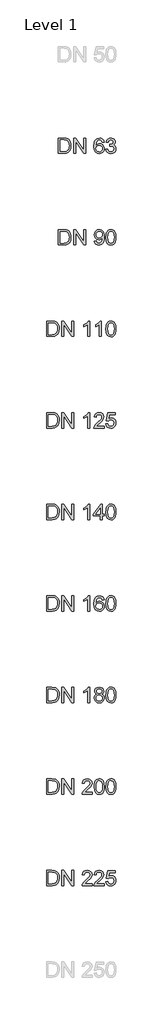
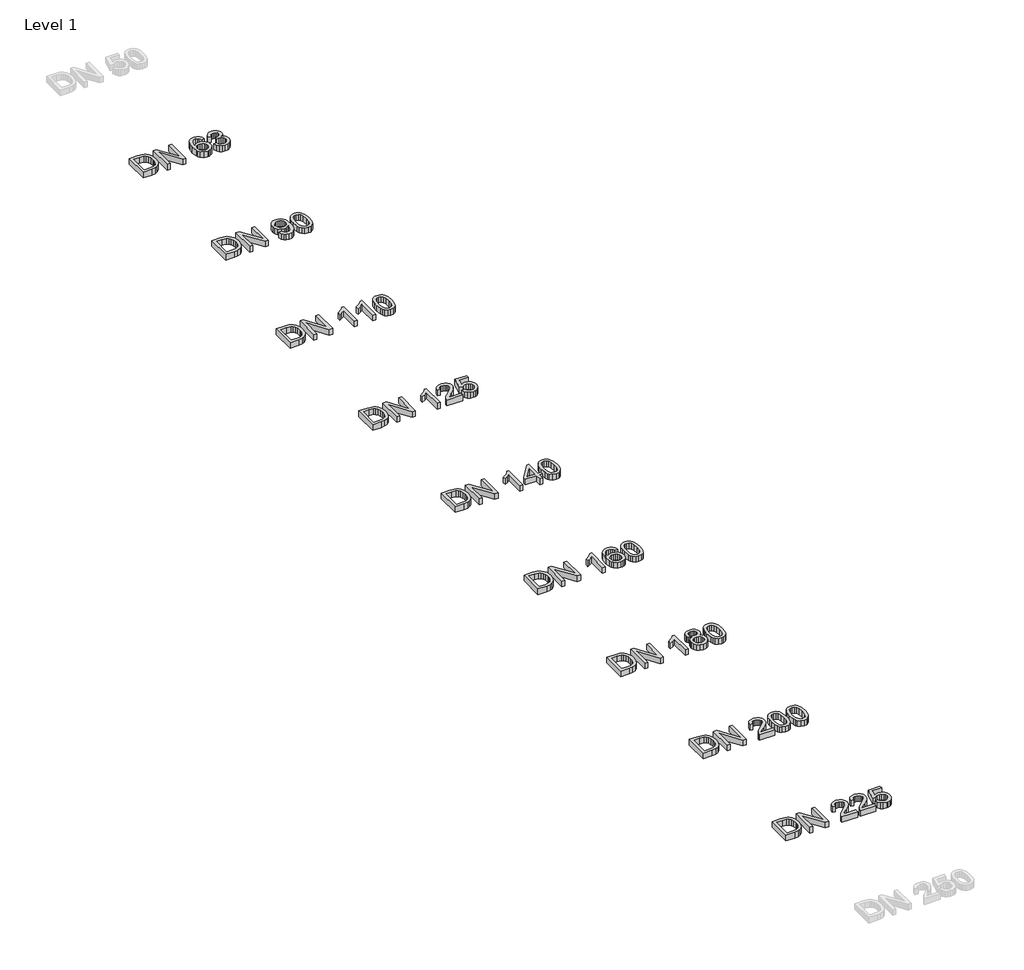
# One storey, part 18 of 26: 9 proxies.
"""IFC4 building model written with IfcOpenShell, lengths in millimetres."""

from ifc_helpers import new_model, si_unit, origin, origin_with_axes, place, context, project, spatial, polyline, outline, extrude, element, save

model = new_model("IFC4")

# Units and contexts
model_context = context("Model", 3, world=origin())
ifc_project = project(units=[si_unit("LENGTHUNIT", "METRE", prefix="MILLI")], contexts=[model_context])

# Site, building, storey
site = spatial("IfcSite", under=ifc_project)
building = spatial("IfcBuilding", under=site)
storey = spatial("IfcBuildingStorey", under=building, Name="Level 1", Elevation=0.0)

# Proxies
placement = place(None, origin())
element("IfcBuildingElementProxy", 1, Name="200mm Arial", ObjectType="200mm Arial", at=placement, inside=storey, context=model_context, shape_type="SweptSolid", body=[
    extrude(outline(polyline([(-19491.3116028, -9113.949573), (-19491.3116028, -8913.0369527), (-19422.0026349, -8913.0369527), (-19386.1464031, -8915.9309577), (-19370.1312736, -8921.5105013), (-19356.6177416, -8930.302881), (-19342.724065, -8945.606772), (-19332.8280393, -8964.6385338), (-19326.9051392, -8987.0302846), (-19324.9308391, -9012.4141423), (-19330.2773908, -9052.9547382), (-19344.0116519, -9082.2136195), (-19362.3567008, -9100.436041), (-19386.3671323, -9110.5160077), (-19418.6671715, -9113.949573), (-19491.3116028, -9113.949573)]), holes=[polyline([(-19466.1975253, -9088.8354954), (-19421.7573803, -9088.8354954), (-19389.4328156, -9085.2057264), (-19370.7934612, -9074.9540815), (-19362.0685265, -9064.0831685), (-19355.5140957, -9050.0116822), (-19351.4122114, -9032.6783089), (-19350.0449167, -9012.0217348), (-19352.7243239, -8984.6513144), (-19360.7625455, -8964.4423301), (-19372.6390025, -8950.5609162), (-19386.8331162, -8942.1732067), (-19422.4440933, -8938.1510302), (-19466.1975253, -8938.1510302), (-19466.1975253, -9088.8354954)])]), origin_with_axes(), (0.0, 0.0, 1.0), 50.0),
    extrude(outline(polyline([(-19290.3989825, -9113.949573), (-19290.3989825, -8913.0369527), (-19263.5190714, -8913.0369527), (-19158.5500754, -9072.2072292), (-19158.5500754, -8913.0369527), (-19133.4359979, -8913.0369527), (-19133.4359979, -9113.949573), (-19160.315909, -9113.949573), (-19265.284905, -8954.7302454), (-19265.284905, -9113.949573), (-19290.3989825, -9113.949573)])), origin_with_axes(), (0.0, 0.0, 1.0), 50.0),
    extrude(outline(polyline([(-18926.2448582, -9113.949573), (-18951.3589358, -9113.949573), (-18951.3589358, -8957.3789958), (-18975.1486381, -8974.3260931), (-19001.5870908, -8987.0057592), (-19001.5870908, -8963.2651077), (-18964.7743658, -8939.769711), (-18951.3037535, -8926.1948653), (-18942.431666, -8913.0369527), (-18926.2448582, -8913.0369527), (-18926.2448582, -9113.949573)])), origin_with_axes(), (0.0, 0.0, 1.0), 50.0),
    extrude(outline(polyline([(-18737.8892767, -8966.4043674), (-18763.0033542, -8969.5436271), (-18772.5192352, -8948.5988789), (-18783.9113143, -8940.7629924), (-18797.6823636, -8938.1510302), (-18820.3438945, -8944.2333458), (-18829.7800677, -8953.8411973), (-18837.4871955, -8967.066555), (-18842.6927257, -8985.7733545), (-18844.6241062, -9011.8255311), (-18834.5502709, -9000.0717013), (-18822.4776101, -8991.7882251), (-18809.0805741, -8986.8770005), (-18795.0336133, -8985.2399256), (-18771.8325221, -8989.7158232), (-18752.3593018, -9003.143516), (-18739.1523382, -9023.6590686), (-18734.750017, -9049.3985455), (-18736.8224189, -9067.3818437), (-18743.0396246, -9084.0530295), (-18752.8865994, -9098.1919608), (-18765.8483083, -9108.5784958), (-18781.3361403, -9114.9612484), (-18798.7614842, -9117.0888326), (-18827.2539447, -9111.4479754), (-18849.9461324, -9094.5254036), (-18858.6051549, -9081.4165418), (-18864.7901709, -9064.6533856), (-18869.7381838, -9020.1641897), (-18864.2444793, -8970.144501), (-18857.3773487, -8951.0667539), (-18847.7633659, -8935.9437382), (-18837.3431084, -8925.9220195), (-18825.2612505, -8918.763649), (-18796.1127338, -8913.0369527), (-18774.0766023, -8916.5808825), (-18756.4305292, -8927.2126722), (-18744.0696942, -8944.0984558), (-18737.8892767, -8966.4043674)]), holes=[polyline([(-18844.6241062, -9049.0061381), (-18838.8115707, -9070.7602267), (-18823.3605269, -9086.554627), (-18800.7235215, -9091.9747551), (-18784.1504376, -9089.1665892), (-18771.1212836, -9080.7420915), (-18762.6783918, -9067.4983397), (-18759.8640945, -9050.2324114), (-18762.6416036, -9033.6593275), (-18770.9741308, -9021.022581), (-18784.224014, -9013.0211476), (-18801.7535911, -9010.3540031), (-18818.3021495, -9013.0211476), (-18832.1406439, -9021.022581), (-18841.5032406, -9033.3527592), (-18844.6241062, -9049.0061381)])]), origin_with_axes(), (0.0, 0.0, 1.0), 50.0),
    extrude(outline(polyline([(-18712.7751992, -9015.1119436), (-18710.9296578, -8982.9529258), (-18705.3930338, -8957.3054194), (-18696.2205094, -8937.7770168), (-18683.4672669, -8923.9753106), (-18667.0413358, -8915.7715422), (-18646.8507456, -8913.0369527), (-18631.3751764, -8914.6556334), (-18617.5182879, -8919.5116758), (-18605.930005, -8927.4150073), (-18597.2602527, -8938.1755557), (-18585.4880288, -8967.9004209), (-18580.9262921, -9015.1119436), (-18582.7534393, -9047.0870203), (-18588.2348811, -9072.6732131), (-18597.3522232, -9092.2200098), (-18610.0870716, -9106.0768983), (-18626.5497909, -9114.335849), (-18646.8507456, -9117.0888326), (-18672.9458418, -9112.3063667), (-18692.7624186, -9097.9589689), (-18701.5180101, -9082.8298218), (-18707.772004, -9063.9789353), (-18712.7751992, -9015.1119436)]), holes=[polyline([(-18687.6611216, -9015.0628927), (-18684.7180657, -9054.5672876), (-18675.8888978, -9077.4311536), (-18662.7432478, -9088.3388547), (-18646.8507456, -9091.9747551), (-18630.9582434, -9088.326592), (-18617.8125935, -9077.3821026), (-18608.9834256, -9054.5059739), (-18606.0403696, -9015.0628927), (-18608.8853237, -8976.4475459), (-18617.420186, -8953.4058703), (-18630.5413105, -8941.9647402), (-18647.1450512, -8938.1510302), (-18662.8658751, -8941.5110191), (-18675.4964903, -8951.5909857), (-18684.6199638, -8976.0674012), (-18687.6611216, -9015.0628927)])]), origin_with_axes(), (0.0, 0.0, 1.0), 50.0),
])
element("IfcBuildingElementProxy", 2, Name="200mm Arial", ObjectType="200mm Arial", at=placement, inside=storey, context=model_context, shape_type="SweptSolid", body=[
    extrude(outline(polyline([(-19491.3116028, -11513.949573), (-19491.3116028, -11313.0369527), (-19422.0026349, -11313.0369527), (-19386.1464031, -11315.9309577), (-19370.1312736, -11321.5105013), (-19356.6177416, -11330.302881), (-19342.724065, -11345.606772), (-19332.8280393, -11364.6385338), (-19326.9051392, -11387.0302846), (-19324.9308391, -11412.4141423), (-19330.2773908, -11452.9547382), (-19344.0116519, -11482.2136195), (-19362.3567008, -11500.436041), (-19386.3671323, -11510.5160077), (-19418.6671715, -11513.949573), (-19491.3116028, -11513.949573)]), holes=[polyline([(-19466.1975253, -11488.8354954), (-19421.7573803, -11488.8354954), (-19389.4328156, -11485.2057264), (-19370.7934612, -11474.9540815), (-19362.0685265, -11464.0831685), (-19355.5140957, -11450.0116822), (-19351.4122114, -11432.6783089), (-19350.0449167, -11412.0217348), (-19352.7243239, -11384.6513144), (-19360.7625455, -11364.4423301), (-19372.6390025, -11350.5609162), (-19386.8331162, -11342.1732067), (-19422.4440933, -11338.1510302), (-19466.1975253, -11338.1510302), (-19466.1975253, -11488.8354954)])]), origin_with_axes(), (0.0, 0.0, 1.0), 50.0),
    extrude(outline(polyline([(-19290.3989825, -11513.949573), (-19290.3989825, -11313.0369527), (-19263.5190714, -11313.0369527), (-19158.5500754, -11472.2072292), (-19158.5500754, -11313.0369527), (-19133.4359979, -11313.0369527), (-19133.4359979, -11513.949573), (-19160.315909, -11513.949573), (-19265.284905, -11354.7302454), (-19265.284905, -11513.949573), (-19290.3989825, -11513.949573)])), origin_with_axes(), (0.0, 0.0, 1.0), 50.0),
    extrude(outline(polyline([(-18891.7130016, -11488.8354954), (-18891.7130016, -11513.949573), (-19023.5619087, -11513.949573), (-19020.8641074, -11496.6345937), (-19005.6092673, -11469.9754118), (-18974.1676195, -11440.8636832), (-18930.806595, -11399.0232377), (-18922.6764029, -11384.6022634), (-18919.9663388, -11370.5736967), (-18922.5231187, -11357.9982638), (-18930.1934583, -11347.5442838), (-18941.9840762, -11340.4993436), (-18956.9016912, -11338.1510302), (-18972.5673328, -11340.4441613), (-18984.7380955, -11347.3235546), (-18992.5923761, -11358.2496499), (-18995.3085714, -11372.6828868), (-19020.422649, -11369.5436271), (-19014.334202, -11345.2511527), (-19001.1701579, -11327.5069778), (-18981.6172299, -11316.6544589), (-18956.3621309, -11313.0369527), (-18930.9230909, -11317.0591291), (-18911.4069511, -11329.1256586), (-18898.9909337, -11347.1518763), (-18894.8522613, -11369.0531178), (-18899.3158962, -11392.8673456), (-18914.1538033, -11417.4909138), (-18950.1326624, -11451.9001431), (-18979.0236618, -11476.0577275), (-18990.3544272, -11488.8354954), (-18891.7130016, -11488.8354954)])), origin_with_axes(), (0.0, 0.0, 1.0), 50.0),
    extrude(outline(polyline([(-18866.5989241, -11415.1119436), (-18864.7533827, -11382.9529258), (-18859.2167587, -11357.3054194), (-18850.0442343, -11337.7770168), (-18837.2909918, -11323.9753106), (-18820.8650607, -11315.7715422), (-18800.6744705, -11313.0369527), (-18785.1989013, -11314.6556334), (-18771.3420128, -11319.5116758), (-18759.7537299, -11327.4150073), (-18751.0839776, -11338.1755557), (-18739.3117537, -11367.9004209), (-18734.750017, -11415.1119436), (-18736.5771642, -11447.0870203), (-18742.058606, -11472.6732131), (-18751.1759481, -11492.2200098), (-18763.9107965, -11506.0768983), (-18780.3735158, -11514.335849), (-18800.6744705, -11517.0888326), (-18826.7695667, -11512.3063667), (-18846.5861435, -11497.9589689), (-18855.341735, -11482.8298218), (-18861.5957289, -11463.9789353), (-18866.5989241, -11415.1119436)]), holes=[polyline([(-18841.4848465, -11415.0628927), (-18838.5417906, -11454.5672876), (-18829.7126227, -11477.4311536), (-18816.5669727, -11488.3388547), (-18800.6744705, -11491.9747551), (-18784.7819683, -11488.326592), (-18771.6363184, -11477.3821026), (-18762.8071505, -11454.5059739), (-18759.8640945, -11415.0628927), (-18762.7090486, -11376.4475459), (-18771.2439109, -11353.4058703), (-18784.3650354, -11341.9647402), (-18800.9687761, -11338.1510302), (-18816.6896001, -11341.5110191), (-18829.3202152, -11351.5909857), (-18838.4436887, -11376.0674012), (-18841.4848465, -11415.0628927)])]), origin_with_axes(), (0.0, 0.0, 1.0), 50.0),
    extrude(outline(polyline([(-18712.7751992, -11415.1119436), (-18710.9296578, -11382.9529258), (-18705.3930338, -11357.3054194), (-18696.2205094, -11337.7770168), (-18683.4672669, -11323.9753106), (-18667.0413358, -11315.7715422), (-18646.8507456, -11313.0369527), (-18631.3751764, -11314.6556334), (-18617.5182879, -11319.5116758), (-18605.930005, -11327.4150073), (-18597.2602527, -11338.1755557), (-18585.4880288, -11367.9004209), (-18580.9262921, -11415.1119436), (-18582.7534393, -11447.0870203), (-18588.2348811, -11472.6732131), (-18597.3522232, -11492.2200098), (-18610.0870716, -11506.0768983), (-18626.5497909, -11514.335849), (-18646.8507456, -11517.0888326), (-18672.9458418, -11512.3063667), (-18692.7624186, -11497.9589689), (-18701.5180101, -11482.8298218), (-18707.772004, -11463.9789353), (-18712.7751992, -11415.1119436)]), holes=[polyline([(-18687.6611216, -11415.0628927), (-18684.7180657, -11454.5672876), (-18675.8888978, -11477.4311536), (-18662.7432478, -11488.3388547), (-18646.8507456, -11491.9747551), (-18630.9582434, -11488.326592), (-18617.8125935, -11477.3821026), (-18608.9834256, -11454.5059739), (-18606.0403696, -11415.0628927), (-18608.8853237, -11376.4475459), (-18617.420186, -11353.4058703), (-18630.5413105, -11341.9647402), (-18647.1450512, -11338.1510302), (-18662.8658751, -11341.5110191), (-18675.4964903, -11351.5909857), (-18684.6199638, -11376.0674012), (-18687.6611216, -11415.0628927)])]), origin_with_axes(), (0.0, 0.0, 1.0), 50.0),
])
element("IfcBuildingElementProxy", 3, Name="200mm Arial", ObjectType="200mm Arial", at=placement, inside=storey, context=model_context, shape_type="SweptSolid", body=[
    extrude(outline(polyline([(-19337.4878779, -3113.949573), (-19337.4878779, -2913.0369527), (-19268.17891, -2913.0369527), (-19232.3226782, -2915.9309577), (-19216.3075487, -2921.5105013), (-19202.7940167, -2930.302881), (-19188.90034, -2945.606772), (-19179.0043144, -2964.6385338), (-19173.0814143, -2987.0302846), (-19171.1071142, -3012.4141423), (-19176.4536659, -3052.9547382), (-19190.187927, -3082.2136195), (-19208.5329759, -3100.436041), (-19232.5434074, -3110.5160077), (-19264.8434466, -3113.949573), (-19337.4878779, -3113.949573)]), holes=[polyline([(-19312.3738004, -3088.8354954), (-19267.9336553, -3088.8354954), (-19235.6090907, -3085.2057264), (-19216.9697363, -3074.9540815), (-19208.2448016, -3064.0831685), (-19201.6903707, -3050.0116822), (-19197.5884865, -3032.6783089), (-19196.2211917, -3012.0217348), (-19198.9005989, -2984.6513144), (-19206.9388205, -2964.4423301), (-19218.8152776, -2950.5609162), (-19233.0093913, -2942.1732067), (-19268.6203684, -2938.1510302), (-19312.3738004, -2938.1510302), (-19312.3738004, -3088.8354954)])]), origin_with_axes(), (0.0, 0.0, 1.0), 50.0),
    extrude(outline(polyline([(-19136.5752576, -3113.949573), (-19136.5752576, -2913.0369527), (-19109.6953465, -2913.0369527), (-19004.7263505, -3072.2072292), (-19004.7263505, -2913.0369527), (-18979.612273, -2913.0369527), (-18979.612273, -3113.949573), (-19006.4921841, -3113.949573), (-19111.4611801, -2954.7302454), (-19111.4611801, -3113.949573), (-19136.5752576, -3113.949573)])), origin_with_axes(), (0.0, 0.0, 1.0), 50.0),
    extrude(outline(polyline([(-18737.8892767, -2966.4043674), (-18763.0033542, -2969.5436271), (-18772.5192352, -2948.5988789), (-18783.9113143, -2940.7629924), (-18797.6823636, -2938.1510302), (-18820.3438945, -2944.2333458), (-18829.7800677, -2953.8411973), (-18837.4871955, -2967.066555), (-18842.6927257, -2985.7733545), (-18844.6241062, -3011.8255311), (-18834.5502709, -3000.0717013), (-18822.4776101, -2991.7882251), (-18809.0805741, -2986.8770005), (-18795.0336133, -2985.2399256), (-18771.8325221, -2989.7158232), (-18752.3593018, -3003.143516), (-18739.1523382, -3023.6590686), (-18734.750017, -3049.3985455), (-18736.8224189, -3067.3818437), (-18743.0396246, -3084.0530295), (-18752.8865994, -3098.1919608), (-18765.8483083, -3108.5784958), (-18781.3361403, -3114.9612484), (-18798.7614842, -3117.0888326), (-18827.2539447, -3111.4479754), (-18849.9461324, -3094.5254036), (-18858.6051549, -3081.4165418), (-18864.7901709, -3064.6533856), (-18869.7381838, -3020.1641897), (-18864.2444793, -2970.144501), (-18857.3773487, -2951.0667539), (-18847.7633659, -2935.9437382), (-18837.3431084, -2925.9220195), (-18825.2612505, -2918.763649), (-18796.1127338, -2913.0369527), (-18774.0766023, -2916.5808825), (-18756.4305292, -2927.2126722), (-18744.0696942, -2944.0984558), (-18737.8892767, -2966.4043674)]), holes=[polyline([(-18844.6241062, -3049.0061381), (-18838.8115707, -3070.7602267), (-18823.3605269, -3086.554627), (-18800.7235215, -3091.9747551), (-18784.1504376, -3089.1665892), (-18771.1212836, -3080.7420915), (-18762.6783918, -3067.4983397), (-18759.8640945, -3050.2324114), (-18762.6416036, -3033.6593275), (-18770.9741308, -3021.022581), (-18784.224014, -3013.0211476), (-18801.7535911, -3010.3540031), (-18818.3021495, -3013.0211476), (-18832.1406439, -3021.022581), (-18841.5032406, -3033.3527592), (-18844.6241062, -3049.0061381)])]), origin_with_axes(), (0.0, 0.0, 1.0), 50.0),
    extrude(outline(polyline([(-18712.7751992, -3060.5821582), (-18687.6611216, -3057.4428985), (-18682.0386585, -3073.2250361), (-18673.8042331, -3083.8813512), (-18662.5531754, -3089.9514041), (-18647.8808152, -3091.9747551), (-18630.6639378, -3089.1911147), (-18617.3711351, -3080.8401934), (-18608.873061, -3068.3812565), (-18606.0403696, -3053.2735692), (-18608.8485355, -3038.9323028), (-18617.2730332, -3027.3011004), (-18630.0262757, -3019.5939726), (-18645.820676, -3017.02493), (-18663.4299609, -3019.7717822), (-18660.6340577, -2994.6577047), (-18656.6118812, -2994.9520102), (-18641.5655076, -2993.1493885), (-18628.1132893, -2987.7415231), (-18618.6219339, -2978.5935242), (-18615.4581487, -2965.5705016), (-18617.7512798, -2954.7241141), (-18624.6306731, -2945.925603), (-18635.1275727, -2940.0946734), (-18648.2732227, -2938.1510302), (-18661.4433981, -2940.1130675), (-18672.2100778, -2945.9991794), (-18680.0704898, -2955.809366), (-18684.5218619, -2969.5436271), (-18709.6359395, -2966.4043674), (-18702.2415114, -2943.8532011), (-18689.0835987, -2927.0164685), (-18671.0819064, -2916.5318316), (-18649.1561395, -2913.0369527), (-18633.3678705, -2914.7598667), (-18618.8671885, -2919.9286087), (-18606.6412435, -2928.0833263), (-18597.6771856, -2938.7641669), (-18592.1773498, -2951.0698196), (-18590.3440712, -2964.0989736), (-18592.0853793, -2976.2390794), (-18597.3093036, -2987.2510138), (-18605.9422678, -2996.6320047), (-18617.9106953, -3003.87928), (-18602.1898714, -3010.2313758), (-18590.5402749, -3021.0471064), (-18583.3297878, -3035.7378608), (-18580.9262921, -3053.7150276), (-18585.7332835, -3078.191443), (-18600.1542577, -3098.645682), (-18621.9206091, -3112.478045), (-18648.763732, -3117.0888326), (-18673.0439437, -3113.1524953), (-18692.8114695, -3101.3434833), (-18706.5579934, -3083.2804773), (-18712.7751992, -3060.5821582)])), origin_with_axes(), (0.0, 0.0, 1.0), 50.0),
])
element("IfcBuildingElementProxy", 4, Name="200mm Arial", ObjectType="200mm Arial", at=placement, inside=storey, context=model_context, shape_type="SweptSolid", body=[
    extrude(outline(polyline([(-19337.4878779, -4313.949573), (-19337.4878779, -4113.0369527), (-19268.17891, -4113.0369527), (-19232.3226782, -4115.9309577), (-19216.3075487, -4121.5105013), (-19202.7940167, -4130.302881), (-19188.90034, -4145.606772), (-19179.0043144, -4164.6385338), (-19173.0814143, -4187.0302846), (-19171.1071142, -4212.4141423), (-19176.4536659, -4252.9547382), (-19190.187927, -4282.2136195), (-19208.5329759, -4300.436041), (-19232.5434074, -4310.5160077), (-19264.8434466, -4313.949573), (-19337.4878779, -4313.949573)]), holes=[polyline([(-19312.3738004, -4288.8354954), (-19267.9336553, -4288.8354954), (-19235.6090907, -4285.2057264), (-19216.9697363, -4274.9540815), (-19208.2448016, -4264.0831685), (-19201.6903707, -4250.0116822), (-19197.5884865, -4232.6783089), (-19196.2211917, -4212.0217348), (-19198.9005989, -4184.6513144), (-19206.9388205, -4164.4423301), (-19218.8152776, -4150.5609162), (-19233.0093913, -4142.1732067), (-19268.6203684, -4138.1510302), (-19312.3738004, -4138.1510302), (-19312.3738004, -4288.8354954)])]), origin_with_axes(), (0.0, 0.0, 1.0), 50.0),
    extrude(outline(polyline([(-19136.5752576, -4313.949573), (-19136.5752576, -4113.0369527), (-19109.6953465, -4113.0369527), (-19004.7263505, -4272.2072292), (-19004.7263505, -4113.0369527), (-18979.612273, -4113.0369527), (-18979.612273, -4313.949573), (-19006.4921841, -4313.949573), (-19111.4611801, -4154.7302454), (-19111.4611801, -4313.949573), (-19136.5752576, -4313.949573)])), origin_with_axes(), (0.0, 0.0, 1.0), 50.0),
    extrude(outline(polyline([(-18863.4596644, -4263.7214179), (-18838.3455868, -4260.5821582), (-18834.0536302, -4274.8375855), (-18827.0638723, -4284.5435388), (-18817.5479914, -4290.116951), (-18805.6776657, -4291.9747551), (-18785.3460541, -4287.1922892), (-18771.562742, -4274.4145212), (-18763.3467108, -4252.5868562), (-18759.7169417, -4223.4506021), (-18759.8640945, -4218.5455089), (-18768.5645037, -4229.1650358), (-18779.9504515, -4237.5772708), (-18793.2003347, -4243.0587125), (-18807.4925502, -4244.8858597), (-18830.3932044, -4240.4222249), (-18849.4556231, -4227.0313202), (-18862.3130988, -4206.3440894), (-18866.5989241, -4179.9914758), (-18862.1046324, -4152.7682081), (-18848.6217572, -4131.4310524), (-18828.3698534, -4117.6354776), (-18803.5684756, -4113.0369527), (-18784.8371506, -4115.6611776), (-18767.7858202, -4123.5338523), (-18753.5242615, -4136.2625693), (-18743.162252, -4153.4549212), (-18736.8530757, -4177.2200981), (-18734.750017, -4209.6672901), (-18736.8469444, -4244.070388), (-18743.1377265, -4270.6621249), (-18753.5671811, -4290.6442486), (-18768.0801258, -4305.2185069), (-18786.0511612, -4314.1212512), (-18806.8548881, -4317.0888326), (-18828.3269338, -4313.5878223), (-18845.4579721, -4303.0847914), (-18857.4386624, -4286.2419274), (-18863.4596644, -4263.7214179)]), holes=[polyline([(-18759.8640945, -4179.4028646), (-18762.5741586, -4162.3821909), (-18770.7043507, -4149.2855919), (-18783.3227031, -4140.9346706), (-18799.4972481, -4138.1510302), (-18816.2726671, -4141.1492685), (-18829.7126227, -4150.1439832), (-18838.5417906, -4163.9089012), (-18841.4848465, -4181.2177491), (-18838.7012061, -4196.7362379), (-18830.3502848, -4209.0541534), (-18817.241423, -4217.092375), (-18800.1839612, -4219.7717822), (-18784.1381749, -4217.092375), (-18771.2193855, -4209.0541534), (-18762.7029173, -4196.2825168), (-18759.8640945, -4179.4028646)])]), origin_with_axes(), (0.0, 0.0, 1.0), 50.0),
    extrude(outline(polyline([(-18712.7751992, -4215.1119436), (-18710.9296578, -4182.9529258), (-18705.3930338, -4157.3054194), (-18696.2205094, -4137.7770168), (-18683.4672669, -4123.9753106), (-18667.0413358, -4115.7715422), (-18646.8507456, -4113.0369527), (-18631.3751764, -4114.6556334), (-18617.5182879, -4119.5116758), (-18605.930005, -4127.4150073), (-18597.2602527, -4138.1755557), (-18585.4880288, -4167.9004209), (-18580.9262921, -4215.1119436), (-18582.7534393, -4247.0870203), (-18588.2348811, -4272.6732131), (-18597.3522232, -4292.2200098), (-18610.0870716, -4306.0768983), (-18626.5497909, -4314.335849), (-18646.8507456, -4317.0888326), (-18672.9458418, -4312.3063667), (-18692.7624186, -4297.9589689), (-18701.5180101, -4282.8298218), (-18707.772004, -4263.9789353), (-18712.7751992, -4215.1119436)]), holes=[polyline([(-18687.6611216, -4215.0628927), (-18684.7180657, -4254.5672876), (-18675.8888978, -4277.4311536), (-18662.7432478, -4288.3388547), (-18646.8507456, -4291.9747551), (-18630.9582434, -4288.326592), (-18617.8125935, -4277.3821026), (-18608.9834256, -4254.5059739), (-18606.0403696, -4215.0628927), (-18608.8853237, -4176.4475459), (-18617.420186, -4153.4058703), (-18630.5413105, -4141.9647402), (-18647.1450512, -4138.1510302), (-18662.8658751, -4141.5110191), (-18675.4964903, -4151.5909857), (-18684.6199638, -4176.0674012), (-18687.6611216, -4215.0628927)])]), origin_with_axes(), (0.0, 0.0, 1.0), 50.0),
])
element("IfcBuildingElementProxy", 5, Name="200mm Arial", ObjectType="200mm Arial", at=placement, inside=storey, context=model_context, shape_type="SweptSolid", body=[
    extrude(outline(polyline([(-19491.3116028, -5513.949573), (-19491.3116028, -5313.0369527), (-19422.0026349, -5313.0369527), (-19386.1464031, -5315.9309577), (-19370.1312736, -5321.5105013), (-19356.6177416, -5330.302881), (-19342.724065, -5345.606772), (-19332.8280393, -5364.6385338), (-19326.9051392, -5387.0302846), (-19324.9308391, -5412.4141423), (-19330.2773908, -5452.9547382), (-19344.0116519, -5482.2136195), (-19362.3567008, -5500.436041), (-19386.3671323, -5510.5160077), (-19418.6671715, -5513.949573), (-19491.3116028, -5513.949573)]), holes=[polyline([(-19466.1975253, -5488.8354954), (-19421.7573803, -5488.8354954), (-19389.4328156, -5485.2057264), (-19370.7934612, -5474.9540815), (-19362.0685265, -5464.0831685), (-19355.5140957, -5450.0116822), (-19351.4122114, -5432.6783089), (-19350.0449167, -5412.0217348), (-19352.7243239, -5384.6513144), (-19360.7625455, -5364.4423301), (-19372.6390025, -5350.5609162), (-19386.8331162, -5342.1732067), (-19422.4440933, -5338.1510302), (-19466.1975253, -5338.1510302), (-19466.1975253, -5488.8354954)])]), origin_with_axes(), (0.0, 0.0, 1.0), 50.0),
    extrude(outline(polyline([(-19290.3989825, -5513.949573), (-19290.3989825, -5313.0369527), (-19263.5190714, -5313.0369527), (-19158.5500754, -5472.2072292), (-19158.5500754, -5313.0369527), (-19133.4359979, -5313.0369527), (-19133.4359979, -5513.949573), (-19160.315909, -5513.949573), (-19265.284905, -5354.7302454), (-19265.284905, -5513.949573), (-19290.3989825, -5513.949573)])), origin_with_axes(), (0.0, 0.0, 1.0), 50.0),
    extrude(outline(polyline([(-18926.2448582, -5513.949573), (-18951.3589358, -5513.949573), (-18951.3589358, -5357.3789958), (-18975.1486381, -5374.3260931), (-19001.5870908, -5387.0057592), (-19001.5870908, -5363.2651077), (-18964.7743658, -5339.769711), (-18951.3037535, -5326.1948653), (-18942.431666, -5313.0369527), (-18926.2448582, -5313.0369527), (-18926.2448582, -5513.949573)])), origin_with_axes(), (0.0, 0.0, 1.0), 50.0),
    extrude(outline(polyline([(-18772.4211333, -5513.949573), (-18797.5352108, -5513.949573), (-18797.5352108, -5357.3789958), (-18821.3249132, -5374.3260931), (-18847.7633659, -5387.0057592), (-18847.7633659, -5363.2651077), (-18810.9506409, -5339.769711), (-18797.4800285, -5326.1948653), (-18788.6079411, -5313.0369527), (-18772.4211333, -5313.0369527), (-18772.4211333, -5513.949573)])), origin_with_axes(), (0.0, 0.0, 1.0), 50.0),
    extrude(outline(polyline([(-18712.7751992, -5415.1119436), (-18710.9296578, -5382.9529258), (-18705.3930338, -5357.3054194), (-18696.2205094, -5337.7770168), (-18683.4672669, -5323.9753106), (-18667.0413358, -5315.7715422), (-18646.8507456, -5313.0369527), (-18631.3751764, -5314.6556334), (-18617.5182879, -5319.5116758), (-18605.930005, -5327.4150073), (-18597.2602527, -5338.1755557), (-18585.4880288, -5367.9004209), (-18580.9262921, -5415.1119436), (-18582.7534393, -5447.0870203), (-18588.2348811, -5472.6732131), (-18597.3522232, -5492.2200098), (-18610.0870716, -5506.0768983), (-18626.5497909, -5514.335849), (-18646.8507456, -5517.0888326), (-18672.9458418, -5512.3063667), (-18692.7624186, -5497.9589689), (-18701.5180101, -5482.8298218), (-18707.772004, -5463.9789353), (-18712.7751992, -5415.1119436)]), holes=[polyline([(-18687.6611216, -5415.0628927), (-18684.7180657, -5454.5672876), (-18675.8888978, -5477.4311536), (-18662.7432478, -5488.3388547), (-18646.8507456, -5491.9747551), (-18630.9582434, -5488.326592), (-18617.8125935, -5477.3821026), (-18608.9834256, -5454.5059739), (-18606.0403696, -5415.0628927), (-18608.8853237, -5376.4475459), (-18617.420186, -5353.4058703), (-18630.5413105, -5341.9647402), (-18647.1450512, -5338.1510302), (-18662.8658751, -5341.5110191), (-18675.4964903, -5351.5909857), (-18684.6199638, -5376.0674012), (-18687.6611216, -5415.0628927)])]), origin_with_axes(), (0.0, 0.0, 1.0), 50.0),
])
element("IfcBuildingElementProxy", 6, Name="200mm Arial", ObjectType="200mm Arial", at=placement, inside=storey, context=model_context, shape_type="SweptSolid", body=[
    extrude(outline(polyline([(-19491.3116028, -6713.949573), (-19491.3116028, -6513.0369527), (-19422.0026349, -6513.0369527), (-19386.1464031, -6515.9309577), (-19370.1312736, -6521.5105013), (-19356.6177416, -6530.302881), (-19342.724065, -6545.606772), (-19332.8280393, -6564.6385338), (-19326.9051392, -6587.0302846), (-19324.9308391, -6612.4141423), (-19330.2773908, -6652.9547382), (-19344.0116519, -6682.2136195), (-19362.3567008, -6700.436041), (-19386.3671323, -6710.5160077), (-19418.6671715, -6713.949573), (-19491.3116028, -6713.949573)]), holes=[polyline([(-19466.1975253, -6688.8354954), (-19421.7573803, -6688.8354954), (-19389.4328156, -6685.2057264), (-19370.7934612, -6674.9540815), (-19362.0685265, -6664.0831685), (-19355.5140957, -6650.0116822), (-19351.4122114, -6632.6783089), (-19350.0449167, -6612.0217348), (-19352.7243239, -6584.6513144), (-19360.7625455, -6564.4423301), (-19372.6390025, -6550.5609162), (-19386.8331162, -6542.1732067), (-19422.4440933, -6538.1510302), (-19466.1975253, -6538.1510302), (-19466.1975253, -6688.8354954)])]), origin_with_axes(), (0.0, 0.0, 1.0), 50.0),
    extrude(outline(polyline([(-19290.3989825, -6713.949573), (-19290.3989825, -6513.0369527), (-19263.5190714, -6513.0369527), (-19158.5500754, -6672.2072292), (-19158.5500754, -6513.0369527), (-19133.4359979, -6513.0369527), (-19133.4359979, -6713.949573), (-19160.315909, -6713.949573), (-19265.284905, -6554.7302454), (-19265.284905, -6713.949573), (-19290.3989825, -6713.949573)])), origin_with_axes(), (0.0, 0.0, 1.0), 50.0),
    extrude(outline(polyline([(-18926.2448582, -6713.949573), (-18951.3589358, -6713.949573), (-18951.3589358, -6557.3789958), (-18975.1486381, -6574.3260931), (-19001.5870908, -6587.0057592), (-19001.5870908, -6563.2651077), (-18964.7743658, -6539.769711), (-18951.3037535, -6526.1948653), (-18942.431666, -6513.0369527), (-18926.2448582, -6513.0369527), (-18926.2448582, -6713.949573)])), origin_with_axes(), (0.0, 0.0, 1.0), 50.0),
    extrude(outline(polyline([(-18737.8892767, -6688.8354954), (-18737.8892767, -6713.949573), (-18869.7381838, -6713.949573), (-18867.0403825, -6696.6345937), (-18851.7855424, -6669.9754118), (-18820.3438945, -6640.8636832), (-18776.98287, -6599.0232377), (-18768.852678, -6584.6022634), (-18766.1426139, -6570.5736967), (-18768.6993938, -6557.9982638), (-18776.3697334, -6547.5442838), (-18788.1603513, -6540.4993436), (-18803.0779662, -6538.1510302), (-18818.7436079, -6540.4441613), (-18830.9143705, -6547.3235546), (-18838.7686511, -6558.2496499), (-18841.4848465, -6572.6828868), (-18866.5989241, -6569.5436271), (-18860.510477, -6545.2511527), (-18847.346433, -6527.5069778), (-18827.7935049, -6516.6544589), (-18802.538406, -6513.0369527), (-18777.099366, -6517.0591291), (-18757.5832262, -6529.1256586), (-18745.1672088, -6547.1518763), (-18741.0285364, -6569.0531178), (-18745.4921713, -6592.8673456), (-18760.3300784, -6617.4909138), (-18796.3089375, -6651.9001431), (-18825.1999369, -6676.0577275), (-18836.5307023, -6688.8354954), (-18737.8892767, -6688.8354954)])), origin_with_axes(), (0.0, 0.0, 1.0), 50.0),
    extrude(outline(polyline([(-18712.7751992, -6660.5821582), (-18687.6611216, -6657.4428985), (-18683.0503339, -6672.5199289), (-18675.005981, -6683.3172655), (-18663.5648509, -6689.8103827), (-18648.763732, -6691.9747551), (-18630.7620397, -6688.9642541), (-18617.2730332, -6679.9327511), (-18608.8485355, -6665.9225785), (-18606.0403696, -6647.9760685), (-18608.6707259, -6631.0780222), (-18616.5617947, -6618.1531014), (-18629.7748897, -6609.9493329), (-18648.3713245, -6607.2147434), (-18670.4197188, -6611.5802764), (-18684.5218619, -6622.9110419), (-18709.6359395, -6619.7717822), (-18687.6611216, -6516.1762123), (-18590.3440712, -6516.1762123), (-18590.3440712, -6541.2902899), (-18667.3540355, -6541.2902899), (-18678.0961897, -6596.619742), (-18660.1558111, -6585.7304349), (-18641.3570412, -6582.1006659), (-18617.8923012, -6586.601089), (-18598.4129496, -6600.1023582), (-18585.2979565, -6620.6792244), (-18580.9262921, -6646.4064386), (-18584.8626294, -6671.5205162), (-18596.6716415, -6693.0048247), (-18607.1072274, -6703.5415782), (-18619.2841214, -6711.0678307), (-18633.2023236, -6715.5835821), (-18648.8618339, -6717.0888326), (-18673.5283216, -6713.2199403), (-18693.1793515, -6701.6132634), (-18706.6499639, -6683.6177025), (-18712.7751992, -6660.5821582)])), origin_with_axes(), (0.0, 0.0, 1.0), 50.0),
])
element("IfcBuildingElementProxy", 7, Name="200mm Arial", ObjectType="200mm Arial", at=placement, inside=storey, context=model_context, shape_type="SweptSolid", body=[
    extrude(outline(polyline([(-19491.3116028, -7913.949573), (-19491.3116028, -7713.0369527), (-19422.0026349, -7713.0369527), (-19386.1464031, -7715.9309577), (-19370.1312736, -7721.5105013), (-19356.6177416, -7730.302881), (-19342.724065, -7745.606772), (-19332.8280393, -7764.6385338), (-19326.9051392, -7787.0302846), (-19324.9308391, -7812.4141423), (-19330.2773908, -7852.9547382), (-19344.0116519, -7882.2136195), (-19362.3567008, -7900.436041), (-19386.3671323, -7910.5160077), (-19418.6671715, -7913.949573), (-19491.3116028, -7913.949573)]), holes=[polyline([(-19466.1975253, -7888.8354954), (-19421.7573803, -7888.8354954), (-19389.4328156, -7885.2057264), (-19370.7934612, -7874.9540815), (-19362.0685265, -7864.0831685), (-19355.5140957, -7850.0116822), (-19351.4122114, -7832.6783089), (-19350.0449167, -7812.0217348), (-19352.7243239, -7784.6513144), (-19360.7625455, -7764.4423301), (-19372.6390025, -7750.5609162), (-19386.8331162, -7742.1732067), (-19422.4440933, -7738.1510302), (-19466.1975253, -7738.1510302), (-19466.1975253, -7888.8354954)])]), origin_with_axes(), (0.0, 0.0, 1.0), 50.0),
    extrude(outline(polyline([(-19290.3989825, -7913.949573), (-19290.3989825, -7713.0369527), (-19263.5190714, -7713.0369527), (-19158.5500754, -7872.2072292), (-19158.5500754, -7713.0369527), (-19133.4359979, -7713.0369527), (-19133.4359979, -7913.949573), (-19160.315909, -7913.949573), (-19265.284905, -7754.7302454), (-19265.284905, -7913.949573), (-19290.3989825, -7913.949573)])), origin_with_axes(), (0.0, 0.0, 1.0), 50.0),
    extrude(outline(polyline([(-18926.2448582, -7913.949573), (-18951.3589358, -7913.949573), (-18951.3589358, -7757.3789958), (-18975.1486381, -7774.3260931), (-19001.5870908, -7787.0057592), (-19001.5870908, -7763.2651077), (-18964.7743658, -7739.769711), (-18951.3037535, -7726.1948653), (-18942.431666, -7713.0369527), (-18926.2448582, -7713.0369527), (-18926.2448582, -7913.949573)])), origin_with_axes(), (0.0, 0.0, 1.0), 50.0),
    extrude(outline(polyline([(-18784.9781721, -7913.949573), (-18784.9781721, -7866.8606776), (-18876.0167031, -7866.8606776), (-18876.0167031, -7841.7466), (-18778.6996527, -7716.1762123), (-18759.8640945, -7716.1762123), (-18759.8640945, -7841.7466), (-18734.750017, -7841.7466), (-18734.750017, -7866.8606776), (-18759.8640945, -7866.8606776), (-18759.8640945, -7913.949573), (-18784.9781721, -7913.949573)]), holes=[polyline([(-18784.9781721, -7841.7466), (-18784.9781721, -7764.1480245), (-18845.1146156, -7841.7466), (-18784.9781721, -7841.7466)])]), origin_with_axes(), (0.0, 0.0, 1.0), 50.0),
    extrude(outline(polyline([(-18712.7751992, -7815.1119436), (-18710.9296578, -7782.9529258), (-18705.3930338, -7757.3054194), (-18696.2205094, -7737.7770168), (-18683.4672669, -7723.9753106), (-18667.0413358, -7715.7715422), (-18646.8507456, -7713.0369527), (-18631.3751764, -7714.6556334), (-18617.5182879, -7719.5116758), (-18605.930005, -7727.4150073), (-18597.2602527, -7738.1755557), (-18585.4880288, -7767.9004209), (-18580.9262921, -7815.1119436), (-18582.7534393, -7847.0870203), (-18588.2348811, -7872.6732131), (-18597.3522232, -7892.2200098), (-18610.0870716, -7906.0768983), (-18626.5497909, -7914.335849), (-18646.8507456, -7917.0888326), (-18672.9458418, -7912.3063667), (-18692.7624186, -7897.9589689), (-18701.5180101, -7882.8298218), (-18707.772004, -7863.9789353), (-18712.7751992, -7815.1119436)]), holes=[polyline([(-18687.6611216, -7815.0628927), (-18684.7180657, -7854.5672876), (-18675.8888978, -7877.4311536), (-18662.7432478, -7888.3388547), (-18646.8507456, -7891.9747551), (-18630.9582434, -7888.326592), (-18617.8125935, -7877.3821026), (-18608.9834256, -7854.5059739), (-18606.0403696, -7815.0628927), (-18608.8853237, -7776.4475459), (-18617.420186, -7753.4058703), (-18630.5413105, -7741.9647402), (-18647.1450512, -7738.1510302), (-18662.8658751, -7741.5110191), (-18675.4964903, -7751.5909857), (-18684.6199638, -7776.0674012), (-18687.6611216, -7815.0628927)])]), origin_with_axes(), (0.0, 0.0, 1.0), 50.0),
])
element("IfcBuildingElementProxy", 8, Name="200mm Arial", ObjectType="200mm Arial", at=placement, inside=storey, context=model_context, shape_type="SweptSolid", body=[
    extrude(outline(polyline([(-19491.3116028, -10313.949573), (-19491.3116028, -10113.0369527), (-19422.0026349, -10113.0369527), (-19386.1464031, -10115.9309577), (-19370.1312736, -10121.5105013), (-19356.6177416, -10130.302881), (-19342.724065, -10145.606772), (-19332.8280393, -10164.6385338), (-19326.9051392, -10187.0302846), (-19324.9308391, -10212.4141423), (-19330.2773908, -10252.9547382), (-19344.0116519, -10282.2136195), (-19362.3567008, -10300.436041), (-19386.3671323, -10310.5160077), (-19418.6671715, -10313.949573), (-19491.3116028, -10313.949573)]), holes=[polyline([(-19466.1975253, -10288.8354954), (-19421.7573803, -10288.8354954), (-19389.4328156, -10285.2057264), (-19370.7934612, -10274.9540815), (-19362.0685265, -10264.0831685), (-19355.5140957, -10250.0116822), (-19351.4122114, -10232.6783089), (-19350.0449167, -10212.0217348), (-19352.7243239, -10184.6513144), (-19360.7625455, -10164.4423301), (-19372.6390025, -10150.5609162), (-19386.8331162, -10142.1732067), (-19422.4440933, -10138.1510302), (-19466.1975253, -10138.1510302), (-19466.1975253, -10288.8354954)])]), origin_with_axes(), (0.0, 0.0, 1.0), 50.0),
    extrude(outline(polyline([(-19290.3989825, -10313.949573), (-19290.3989825, -10113.0369527), (-19263.5190714, -10113.0369527), (-19158.5500754, -10272.2072292), (-19158.5500754, -10113.0369527), (-19133.4359979, -10113.0369527), (-19133.4359979, -10313.949573), (-19160.315909, -10313.949573), (-19265.284905, -10154.7302454), (-19265.284905, -10313.949573), (-19290.3989825, -10313.949573)])), origin_with_axes(), (0.0, 0.0, 1.0), 50.0),
    extrude(outline(polyline([(-18926.2448582, -10313.949573), (-18951.3589358, -10313.949573), (-18951.3589358, -10157.3789958), (-18975.1486381, -10174.3260931), (-19001.5870908, -10187.0057592), (-19001.5870908, -10163.2651077), (-18964.7743658, -10139.769711), (-18951.3037535, -10126.1948653), (-18942.431666, -10113.0369527), (-18926.2448582, -10113.0369527), (-18926.2448582, -10313.949573)])), origin_with_axes(), (0.0, 0.0, 1.0), 50.0),
    extrude(outline(polyline([(-18830.0069283, -10203.2906688), (-18843.4530152, -10196.6687929), (-18852.8891884, -10187.6924722), (-18858.4626006, -10176.5456478), (-18860.3204047, -10163.4122605), (-18856.2737027, -10143.7796247), (-18844.1335969, -10127.5560287), (-18825.2612505, -10116.6667217), (-18801.0178271, -10113.0369527), (-18776.6272508, -10116.7525608), (-18757.5096498, -10127.8993853), (-18745.1488147, -10144.3804986), (-18741.0285364, -10164.0989736), (-18742.861815, -10176.8092965), (-18748.3616508, -10187.7660486), (-18757.5893575, -10196.687187), (-18770.6062488, -10203.2906688), (-18755.1490736, -10211.255314), (-18743.8980159, -10222.9846183), (-18737.0370167, -10237.9144959), (-18734.750017, -10255.4808612), (-18739.2872283, -10279.4912927), (-18752.8988621, -10299.332395), (-18773.9171868, -10312.6497232), (-18800.6744705, -10317.0888326), (-18827.4317543, -10312.6313291), (-18848.450079, -10299.2588186), (-18862.0617128, -10279.227644), (-18866.5989241, -10254.7941481), (-18864.2199538, -10236.5472012), (-18857.0830431, -10221.5376158), (-18845.5560739, -10210.2804267), (-18830.0069283, -10203.2906688)]), holes=[polyline([(-18835.2063271, -10164.1480245), (-18832.9806411, -10175.110908), (-18826.3035829, -10183.8664995), (-18815.3713562, -10189.6054586), (-18800.3801649, -10191.518445), (-18785.7384615, -10189.6177213), (-18774.9717818, -10183.9155504), (-18768.3499059, -10175.4542645), (-18766.1426139, -10165.276196), (-18768.4234823, -10154.7118513), (-18775.2660874, -10145.974654), (-18786.1799199, -10140.1069361), (-18800.6744705, -10138.1510302), (-18815.2609916, -10140.0640166), (-18826.1564301, -10145.8029757), (-18832.9438529, -10154.2152106), (-18835.2063271, -10164.1480245)]), polyline([(-18841.4848465, -10253.9112313), (-18837.2909918, -10272.8203659), (-18831.4845876, -10280.9321639), (-18822.4530846, -10286.97156), (-18800.4782668, -10291.9747551), (-18783.3840168, -10289.3443988), (-18770.5571979, -10281.45333), (-18762.5373704, -10269.5032966), (-18759.8640945, -10254.6960463), (-18762.6232095, -10239.6374099), (-18770.9005544, -10227.4237277), (-18784.0216789, -10219.3303238), (-18801.3121327, -10216.6325225), (-18818.1672594, -10219.2935356), (-18830.8653196, -10227.2765749), (-18838.8299648, -10239.2572652), (-18841.4848465, -10253.9112313)])]), origin_with_axes(), (0.0, 0.0, 1.0), 50.0),
    extrude(outline(polyline([(-18712.7751992, -10215.1119436), (-18710.9296578, -10182.9529258), (-18705.3930338, -10157.3054194), (-18696.2205094, -10137.7770168), (-18683.4672669, -10123.9753106), (-18667.0413358, -10115.7715422), (-18646.8507456, -10113.0369527), (-18631.3751764, -10114.6556334), (-18617.5182879, -10119.5116758), (-18605.930005, -10127.4150073), (-18597.2602527, -10138.1755557), (-18585.4880288, -10167.9004209), (-18580.9262921, -10215.1119436), (-18582.7534393, -10247.0870203), (-18588.2348811, -10272.6732131), (-18597.3522232, -10292.2200098), (-18610.0870716, -10306.0768983), (-18626.5497909, -10314.335849), (-18646.8507456, -10317.0888326), (-18672.9458418, -10312.3063667), (-18692.7624186, -10297.9589689), (-18701.5180101, -10282.8298218), (-18707.772004, -10263.9789353), (-18712.7751992, -10215.1119436)]), holes=[polyline([(-18687.6611216, -10215.0628927), (-18684.7180657, -10254.5672876), (-18675.8888978, -10277.4311536), (-18662.7432478, -10288.3388547), (-18646.8507456, -10291.9747551), (-18630.9582434, -10288.326592), (-18617.8125935, -10277.3821026), (-18608.9834256, -10254.5059739), (-18606.0403696, -10215.0628927), (-18608.8853237, -10176.4475459), (-18617.420186, -10153.4058703), (-18630.5413105, -10141.9647402), (-18647.1450512, -10138.1510302), (-18662.8658751, -10141.5110191), (-18675.4964903, -10151.5909857), (-18684.6199638, -10176.0674012), (-18687.6611216, -10215.0628927)])]), origin_with_axes(), (0.0, 0.0, 1.0), 50.0),
])
element("IfcBuildingElementProxy", 9, Name="200mm Arial", ObjectType="200mm Arial", at=placement, inside=storey, context=model_context, shape_type="SweptSolid", body=[
    extrude(outline(polyline([(-19491.3116028, -12713.949573), (-19491.3116028, -12513.0369527), (-19422.0026349, -12513.0369527), (-19386.1464031, -12515.9309577), (-19370.1312736, -12521.5105013), (-19356.6177416, -12530.302881), (-19342.724065, -12545.606772), (-19332.8280393, -12564.6385338), (-19326.9051392, -12587.0302846), (-19324.9308391, -12612.4141423), (-19330.2773908, -12652.9547382), (-19344.0116519, -12682.2136195), (-19362.3567008, -12700.436041), (-19386.3671323, -12710.5160077), (-19418.6671715, -12713.949573), (-19491.3116028, -12713.949573)]), holes=[polyline([(-19466.1975253, -12688.8354954), (-19421.7573803, -12688.8354954), (-19389.4328156, -12685.2057264), (-19370.7934612, -12674.9540815), (-19362.0685265, -12664.0831685), (-19355.5140957, -12650.0116822), (-19351.4122114, -12632.6783089), (-19350.0449167, -12612.0217348), (-19352.7243239, -12584.6513144), (-19360.7625455, -12564.4423301), (-19372.6390025, -12550.5609162), (-19386.8331162, -12542.1732067), (-19422.4440933, -12538.1510302), (-19466.1975253, -12538.1510302), (-19466.1975253, -12688.8354954)])]), origin_with_axes(), (0.0, 0.0, 1.0), 50.0),
    extrude(outline(polyline([(-19290.3989825, -12713.949573), (-19290.3989825, -12513.0369527), (-19263.5190714, -12513.0369527), (-19158.5500754, -12672.2072292), (-19158.5500754, -12513.0369527), (-19133.4359979, -12513.0369527), (-19133.4359979, -12713.949573), (-19160.315909, -12713.949573), (-19265.284905, -12554.7302454), (-19265.284905, -12713.949573), (-19290.3989825, -12713.949573)])), origin_with_axes(), (0.0, 0.0, 1.0), 50.0),
    extrude(outline(polyline([(-18891.7130016, -12688.8354954), (-18891.7130016, -12713.949573), (-19023.5619087, -12713.949573), (-19020.8641074, -12696.6345937), (-19005.6092673, -12669.9754118), (-18974.1676195, -12640.8636832), (-18930.806595, -12599.0232377), (-18922.6764029, -12584.6022634), (-18919.9663388, -12570.5736967), (-18922.5231187, -12557.9982638), (-18930.1934583, -12547.5442838), (-18941.9840762, -12540.4993436), (-18956.9016912, -12538.1510302), (-18972.5673328, -12540.4441613), (-18984.7380955, -12547.3235546), (-18992.5923761, -12558.2496499), (-18995.3085714, -12572.6828868), (-19020.422649, -12569.5436271), (-19014.334202, -12545.2511527), (-19001.1701579, -12527.5069778), (-18981.6172299, -12516.6544589), (-18956.3621309, -12513.0369527), (-18930.9230909, -12517.0591291), (-18911.4069511, -12529.1256586), (-18898.9909337, -12547.1518763), (-18894.8522613, -12569.0531178), (-18899.3158962, -12592.8673456), (-18914.1538033, -12617.4909138), (-18950.1326624, -12651.9001431), (-18979.0236618, -12676.0577275), (-18990.3544272, -12688.8354954), (-18891.7130016, -12688.8354954)])), origin_with_axes(), (0.0, 0.0, 1.0), 50.0),
    extrude(outline(polyline([(-18737.8892767, -12688.8354954), (-18737.8892767, -12713.949573), (-18869.7381838, -12713.949573), (-18867.0403825, -12696.6345937), (-18851.7855424, -12669.9754118), (-18820.3438945, -12640.8636832), (-18776.98287, -12599.0232377), (-18768.852678, -12584.6022634), (-18766.1426139, -12570.5736967), (-18768.6993938, -12557.9982638), (-18776.3697334, -12547.5442838), (-18788.1603513, -12540.4993436), (-18803.0779662, -12538.1510302), (-18818.7436079, -12540.4441613), (-18830.9143705, -12547.3235546), (-18838.7686511, -12558.2496499), (-18841.4848465, -12572.6828868), (-18866.5989241, -12569.5436271), (-18860.510477, -12545.2511527), (-18847.346433, -12527.5069778), (-18827.7935049, -12516.6544589), (-18802.538406, -12513.0369527), (-18777.099366, -12517.0591291), (-18757.5832262, -12529.1256586), (-18745.1672088, -12547.1518763), (-18741.0285364, -12569.0531178), (-18745.4921713, -12592.8673456), (-18760.3300784, -12617.4909138), (-18796.3089375, -12651.9001431), (-18825.1999369, -12676.0577275), (-18836.5307023, -12688.8354954), (-18737.8892767, -12688.8354954)])), origin_with_axes(), (0.0, 0.0, 1.0), 50.0),
    extrude(outline(polyline([(-18712.7751992, -12660.5821582), (-18687.6611216, -12657.4428985), (-18683.0503339, -12672.5199289), (-18675.005981, -12683.3172655), (-18663.5648509, -12689.8103827), (-18648.763732, -12691.9747551), (-18630.7620397, -12688.9642541), (-18617.2730332, -12679.9327511), (-18608.8485355, -12665.9225785), (-18606.0403696, -12647.9760685), (-18608.6707259, -12631.0780222), (-18616.5617947, -12618.1531014), (-18629.7748897, -12609.9493329), (-18648.3713245, -12607.2147434), (-18670.4197188, -12611.5802764), (-18684.5218619, -12622.9110419), (-18709.6359395, -12619.7717822), (-18687.6611216, -12516.1762123), (-18590.3440712, -12516.1762123), (-18590.3440712, -12541.2902899), (-18667.3540355, -12541.2902899), (-18678.0961897, -12596.619742), (-18660.1558111, -12585.7304349), (-18641.3570412, -12582.1006659), (-18617.8923012, -12586.601089), (-18598.4129496, -12600.1023582), (-18585.2979565, -12620.6792244), (-18580.9262921, -12646.4064386), (-18584.8626294, -12671.5205162), (-18596.6716415, -12693.0048247), (-18607.1072274, -12703.5415782), (-18619.2841214, -12711.0678307), (-18633.2023236, -12715.5835821), (-18648.8618339, -12717.0888326), (-18673.5283216, -12713.2199403), (-18693.1793515, -12701.6132634), (-18706.6499639, -12683.6177025), (-18712.7751992, -12660.5821582)])), origin_with_axes(), (0.0, 0.0, 1.0), 50.0),
])

save(model, "model.ifc")
